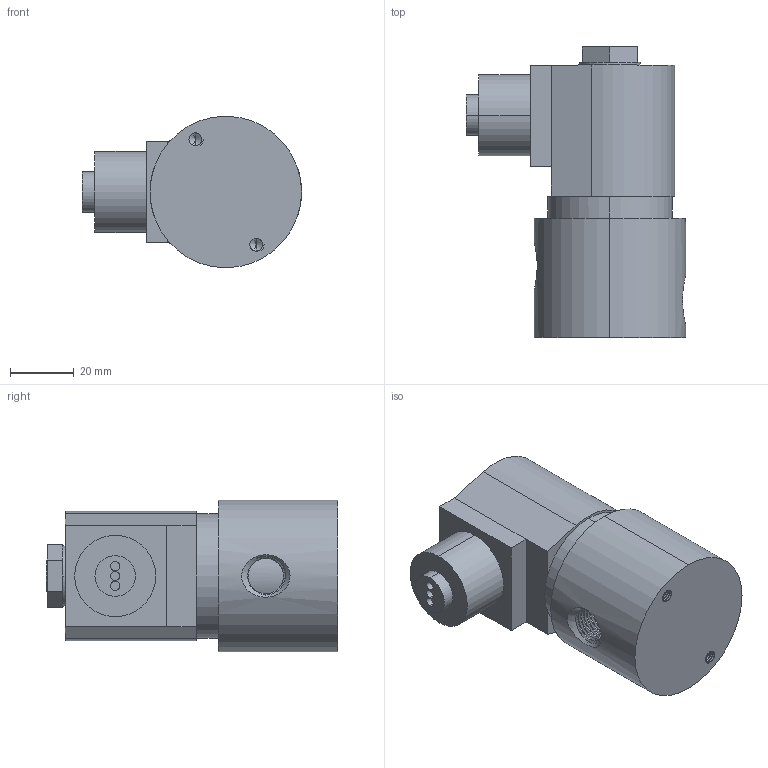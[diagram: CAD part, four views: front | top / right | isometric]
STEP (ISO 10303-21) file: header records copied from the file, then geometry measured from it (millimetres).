
FILE_DESCRIPTION (( 'STEP AP203' ), '1' );
FILE_NAME ('S401G_B.STEP', '2021-07-09T20:35:17', ( '' ), ( '' ), 'SwSTEP 2.0', 'SolidWorks 2020', '' );
FILE_SCHEMA (( 'CONFIG_CONTROL_DESIGN' ));
Length unit declared in the file: inch
Products named in the file (1): S401G_B
Bounding box: 68.63 x 91.21 x 47.45 mm (x, y, z)
Volume: 142323.1 mm3; surface area: 20850.8 mm2
Topology: 1 solids, 1 shells, 202 faces, 535 edges, 345 vertices
Faces by surface type: cylinder 118, plane 48, bspline 25, cone 11
Entity records: 17482 total; most frequent: CARTESIAN_POINT 13171, ORIENTED_EDGE 1062, DIRECTION 700, EDGE_CURVE 531, VERTEX_POINT 345, AXIS2_PLACEMENT_3D 257, EDGE_LOOP 216, ADVANCED_FACE 202
